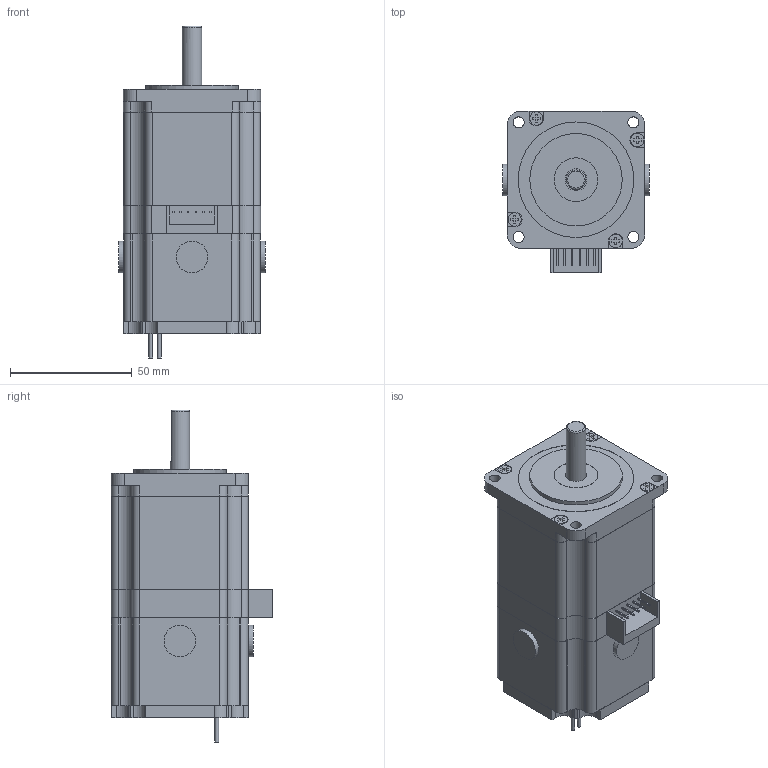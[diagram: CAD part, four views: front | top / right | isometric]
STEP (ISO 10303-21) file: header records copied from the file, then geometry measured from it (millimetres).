
FILE_DESCRIPTION(/* description */ (''),/* implementation_level */ '2;1');
FILE_NAME(/* name */ 'UB57D24-D30-655.stp',/* time_stamp */ '2018-08-20T10:39:05+08:00',/* author */ (''),/* organization */ (''),/* preprocessor_version */ 'ST-DEVELOPER v11',/* originating_system */ 'SIEMENS UGS NX 6.0',/* authorisation */ '');
FILE_SCHEMA (('CONFIG_CONTROL_DESIGN'));
Length unit declared in the file: millimetre
Products named in the file (1): UB57D24-D30-655
Bounding box: 60.2 x 66.4 x 136.5 mm (x, y, z)
Volume: 292879.1 mm3; surface area: 30293.4 mm2
Topology: 1 solids, 3 shells, 276 faces, 721 edges, 480 vertices
Faces by surface type: plane 189, cylinder 86, torus 1
Full cylindrical faces by diameter (mm): 1.5 x2, 4.5 x4, 5.5 x4, 6 x1, 8 x2, 9 x2, 13 x3, 13.226 x1, 18 x1, 38 x1, 47.5 x1
Entity records: 8414 total; most frequent: CARTESIAN_POINT 1479, DIRECTION 1417, ORIENTED_EDGE 1382, EDGE_CURVE 691, LINE 515, VECTOR 515, VERTEX_POINT 472, AXIS2_PLACEMENT_3D 451
